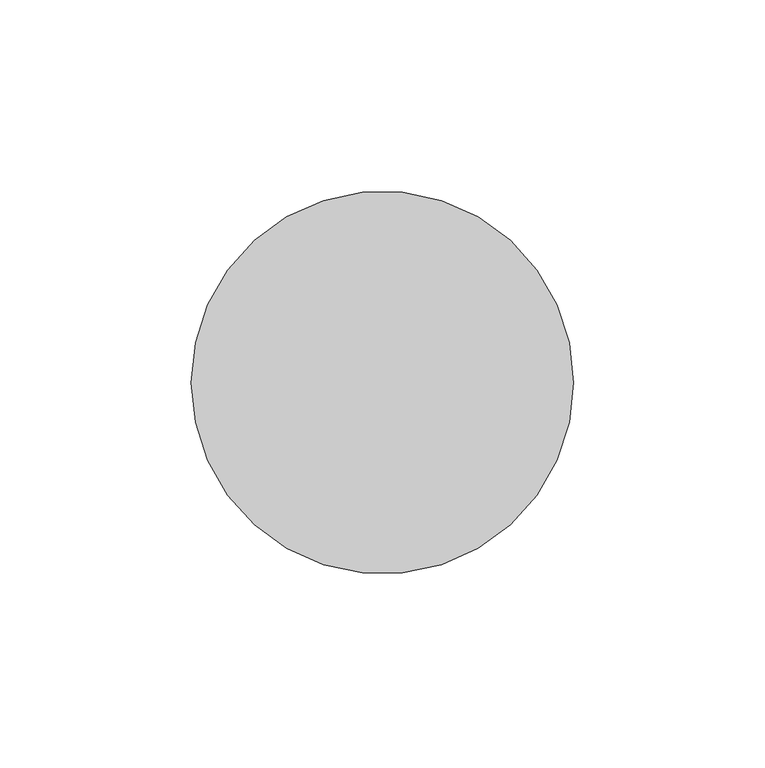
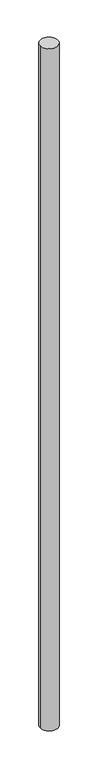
"""IFC4 building model written with IfcOpenShell, lengths in millimetres: proxy geometry, 営_3D_竪樋 : 3D_竪樋."""

from ifc_helpers import new_model, si_unit, point, frame, origin, origin_2d, place, context, project, spatial, circle_curve, trimmed, segment, composite_curve, outline, extrude, source, transform, mapped, element, save


def generic_models_82cc7334(model_context):
    return source(origin(), model_context, "Body", "SweptSolid", [
        extrude(outline(composite_curve([segment(trimmed(circle_curve(origin_2d(), 50.0), [point((-50.0, 0.0))], [point((50.0, 0.0))], False, "CARTESIAN"), True, "CONTINUOUS"), segment(trimmed(circle_curve(origin_2d(), 50.0), [point((50.0, 0.0))], [point((-50.0, 0.0))], False, "CARTESIAN"), True, "CONTINUOUS")], self_intersect=False)), frame((0.0, 0.0, -250.0), z_axis=(0.0, 0.0, 1.0), x_axis=(1.0, 0.0, 0.0)), (0.0, 0.0, 1.0), 4050.0),
    ])


if __name__ == "__main__":
    model = new_model("IFC4")
    model_context = context("Model", 3, world=origin())
    ifc_project = project(units=[si_unit("LENGTHUNIT", "METRE", prefix="MILLI")], contexts=[model_context])
    site = spatial("IfcSite", under=ifc_project)
    building = spatial("IfcBuilding", under=site)
    placement = place(None, origin())
    generic_models_shape = generic_models_82cc7334(model_context)
    element("IfcBuildingElementProxy", 1, Name="営_3D_竪樋 : 3D_竪樋", ObjectType="営_3D_竪樋 : 3D_竪樋", at=placement, inside=building, context=model_context, shape_type="MappedRepresentation", body=[
        mapped(generic_models_shape, transform((0.0, 0.0, 0.0), x_axis=(1.0, 0.0, 0.0), y_axis=(0.0, 1.0, 0.0), z_axis=(0.0, 0.0, 1.0))),
    ])
    save(model, "model.ifc")
